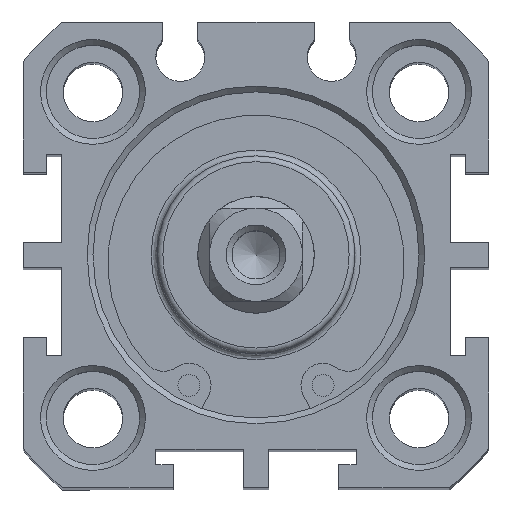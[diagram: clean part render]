
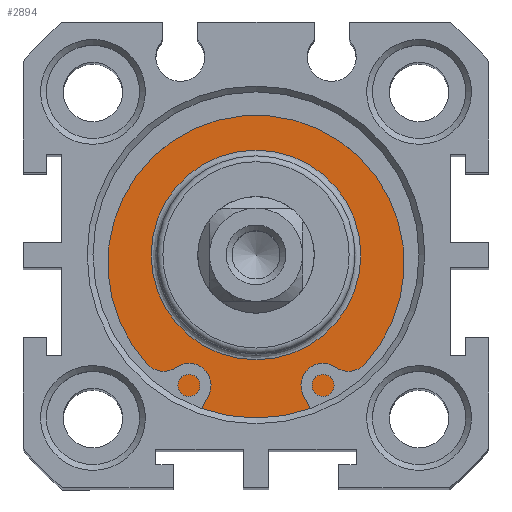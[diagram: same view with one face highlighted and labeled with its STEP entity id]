
A CAD part, top view. The second image highlights one B-rep face of the part: STEP entity #2894.
In plain terms, the highlighted planar face has unit normal (0, 0, 1).
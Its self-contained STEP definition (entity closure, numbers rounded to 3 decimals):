
#2843=CARTESIAN_POINT('',(-2.524,11.284,103.3));
#2844=VERTEX_POINT('',#2843);
#2845=CARTESIAN_POINT('',(-2.524,2.284,103.3));
#2846=DIRECTION('',(0.0,0.0,1.0));
#2847=DIRECTION('',(0.0,-1.0,0.0));
#2848=AXIS2_PLACEMENT_3D('',#2845,#2846,#2847);
#2849=CIRCLE('',#2848,9.);
#2850=EDGE_CURVE('',#2844,#2844,#2849,.T.);
#2875=CARTESIAN_POINT('',(-2.524,13.534,103.3));
#2876=DIRECTION('',(0.0,0.0,1.0));
#2877=DIRECTION('',(1.0,0.0,0.0));
#2878=AXIS2_PLACEMENT_3D('',#2875,#2876,#2877);
#2879=PLANE('',#2878);
#2880=CARTESIAN_POINT('',(-2.524,16.284,103.3));
#2881=VERTEX_POINT('',#2880);
#2882=CARTESIAN_POINT('',(-2.524,2.284,103.3));
#2883=DIRECTION('',(0.0,0.0,-1.0));
#2884=DIRECTION('',(0.0,1.0,0.0));
#2885=AXIS2_PLACEMENT_3D('',#2882,#2883,#2884);
#2886=CIRCLE('',#2885,14.);
#2887=EDGE_CURVE('',#2881,#2881,#2886,.T.);
#2888=ORIENTED_EDGE('',*,*,#2887,.F.);
#2889=EDGE_LOOP('',(#2888));
#2890=FACE_OUTER_BOUND('',#2889,.T.);
#2891=ORIENTED_EDGE('',*,*,#2850,.F.);
#2892=EDGE_LOOP('',(#2891));
#2893=FACE_BOUND('',#2892,.T.);
#2894=ADVANCED_FACE('',(#2890,#2893),#2879,.T.);
